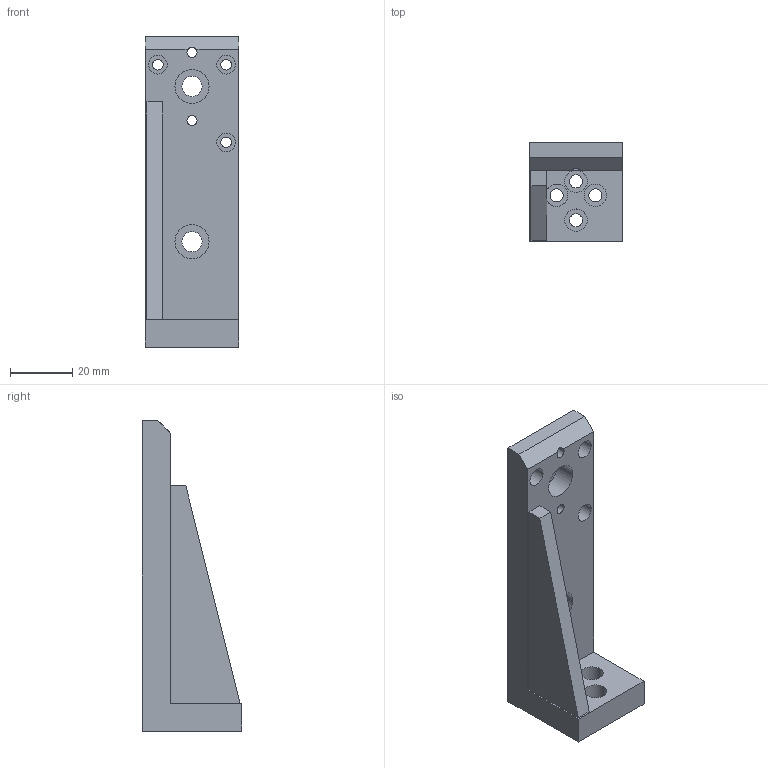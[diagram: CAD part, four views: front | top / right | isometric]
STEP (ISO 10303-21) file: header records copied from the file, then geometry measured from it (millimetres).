
FILE_DESCRIPTION (( 'STEP AP203' ), '1' );
FILE_NAME ('2AB173-20-50.STEP', '2007-10-23T15:16:07', ( 'STANDA' ), ( '' ), 'SwSTEP 2.0', 'SolidWorks 2003240', '' );
FILE_SCHEMA (( 'CONFIG_CONTROL_DESIGN' ));
Length unit declared in the file: millimetre
Products named in the file (1): 2AB173-20-50
Bounding box: 30 x 32 x 100 mm (x, y, z)
Volume: 33291.7 mm3; surface area: 15327.2 mm2
Topology: 1 solids, 19 shells, 325 faces, 782 edges, 492 vertices
Faces by surface type: cylinder 130, plane 123, cone 54, bspline 18
Entity records: 9759 total; most frequent: CARTESIAN_POINT 2170, DIRECTION 1615, ORIENTED_EDGE 1492, EDGE_CURVE 746, AXIS2_PLACEMENT_3D 643, VERTEX_POINT 492, EDGE_LOOP 398, CIRCLE 335
